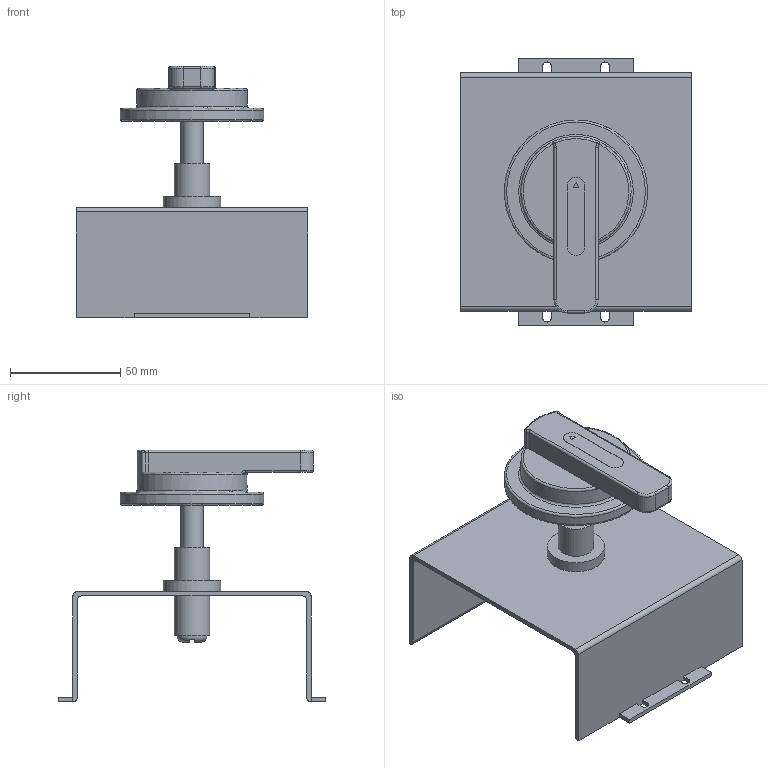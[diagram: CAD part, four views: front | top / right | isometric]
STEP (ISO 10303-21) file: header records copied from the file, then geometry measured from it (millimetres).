
FILE_DESCRIPTION(/* description */ (''),/* implementation_level */ '2;1');
FILE_NAME(/* name */ 'D:\2 ДОГОВОР ЧИНТ\Выслать\CHINT 10.03.2019\NM1\Privod NM1-250.stp',/* time_stamp */ '2019-03-11T17:54:00+03:00',/* author */ ('RSagdiev'),/* organization */ (''),/* preprocessor_version */ 'ST-DEVELOPER v16.5',/* originating_system */ 'Autodesk Inventor 2017',/* authorisation */ '');
FILE_SCHEMA (('AUTOMOTIVE_DESIGN { 1 0 10303 214 3 1 1 }'));
Length unit declared in the file: millimetre
Products named in the file (1): Privod NM1-250
Bounding box: 105 x 121 x 114 mm (x, y, z)
Volume: 106991.3 mm3; surface area: 64377.9 mm2
Topology: 6 solids, 6 shells, 116 faces, 293 edges, 184 vertices
Faces by surface type: plane 64, cylinder 28, bspline 23, torus 1
Full cylindrical faces by diameter (mm): 10 x4, 16 x2, 20.222 x1, 26 x1, 50 x1, 65 x1
Entity records: 5290 total; most frequent: CARTESIAN_POINT 2558, ORIENTED_EDGE 556, DIRECTION 515, EDGE_CURVE 278, VERTEX_POINT 182, AXIS2_PLACEMENT_3D 180, LINE 155, VECTOR 155
